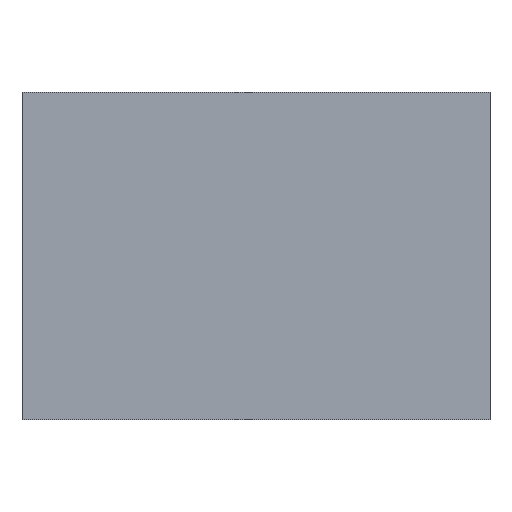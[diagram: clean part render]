
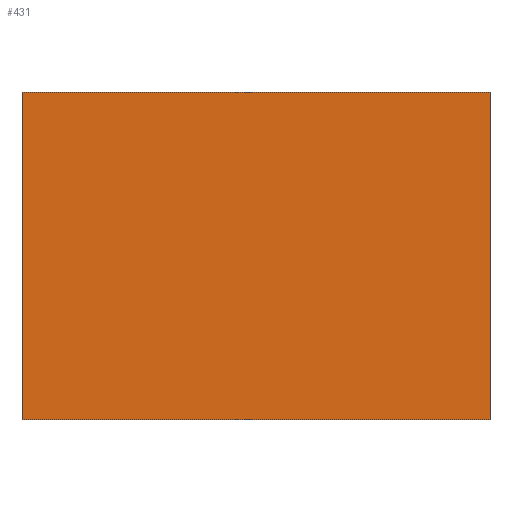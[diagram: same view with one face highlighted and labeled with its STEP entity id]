
A CAD part, front view. The second image highlights one B-rep face of the part: STEP entity #431.
In plain terms, the highlighted planar face has unit normal (0, -1, 0).
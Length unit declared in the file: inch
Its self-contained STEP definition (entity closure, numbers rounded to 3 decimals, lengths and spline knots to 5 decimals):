
#1 = LINE ( 'NONE', #78, #196 ) ;
#21 = DIRECTION ( 'NONE',  ( 0., 1., 0. ) ) ;
#35 = AXIS2_PLACEMENT_3D ( 'NONE', #189, #21, #211 ) ;
#78 = CARTESIAN_POINT ( 'NONE',  ( -1.6267, 0., 2.5057 ) ) ;
#90 = EDGE_CURVE ( 'NONE', #369, #319, #324, .T. ) ;
#95 = VECTOR ( 'NONE', #454, 39.37008 ) ;
#113 = CARTESIAN_POINT ( 'NONE',  ( -1.6267, 0., -0.9943 ) ) ;
#115 = EDGE_CURVE ( 'NONE', #305, #369, #1, .T. ) ;
#143 = ORIENTED_EDGE ( 'NONE', *, *, #115, .F. ) ;
#149 = VERTEX_POINT ( 'NONE', #320 ) ;
#159 = CARTESIAN_POINT ( 'NONE',  ( 3.3733, 0., -0.9943 ) ) ;
#176 = EDGE_LOOP ( 'NONE', ( #471, #461, #265, #143 ) ) ;
#189 = CARTESIAN_POINT ( 'NONE',  ( 0., 0., 0. ) ) ;
#196 = VECTOR ( 'NONE', #204, 39.37008 ) ;
#204 = DIRECTION ( 'NONE',  ( 1., 0., 0. ) ) ;
#211 = DIRECTION ( 'NONE',  ( 0., 0., 1. ) ) ;
#218 = VECTOR ( 'NONE', #522, 39.37008 ) ;
#233 = CARTESIAN_POINT ( 'NONE',  ( -1.6267, 0., 2.5057 ) ) ;
#265 = ORIENTED_EDGE ( 'NONE', *, *, #90, .F. ) ;
#279 = VECTOR ( 'NONE', #353, 39.37008 ) ;
#280 = EDGE_CURVE ( 'NONE', #149, #305, #473, .T. ) ;
#305 = VERTEX_POINT ( 'NONE', #233 ) ;
#311 = CARTESIAN_POINT ( 'NONE',  ( 3.3733, 0., 2.5057 ) ) ;
#319 = VERTEX_POINT ( 'NONE', #159 ) ;
#320 = CARTESIAN_POINT ( 'NONE',  ( -1.6267, 0., -0.9943 ) ) ;
#323 = CARTESIAN_POINT ( 'NONE',  ( 3.3733, 0., -0.9943 ) ) ;
#324 = LINE ( 'NONE', #323, #218 ) ;
#328 = EDGE_CURVE ( 'NONE', #319, #149, #433, .T. ) ;
#353 = DIRECTION ( 'NONE',  ( -1., 0., 0. ) ) ;
#369 = VERTEX_POINT ( 'NONE', #311 ) ;
#405 = FACE_OUTER_BOUND ( 'NONE', #176, .T. ) ;
#413 = PLANE ( 'NONE',  #35 ) ;
#431 = ADVANCED_FACE ( 'NONE', ( #405 ), #413, .F. ) ;
#433 = LINE ( 'NONE', #434, #279 ) ;
#434 = CARTESIAN_POINT ( 'NONE',  ( -1.6267, 0., -0.9943 ) ) ;
#454 = DIRECTION ( 'NONE',  ( 0., 0., 1. ) ) ;
#461 = ORIENTED_EDGE ( 'NONE', *, *, #328, .F. ) ;
#471 = ORIENTED_EDGE ( 'NONE', *, *, #280, .F. ) ;
#473 = LINE ( 'NONE', #113, #95 ) ;
#522 = DIRECTION ( 'NONE',  ( 0., 0., -1. ) ) ;
